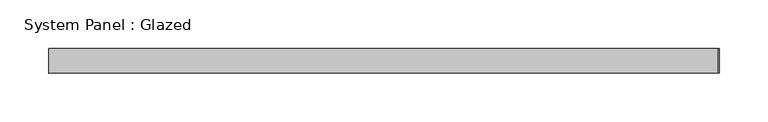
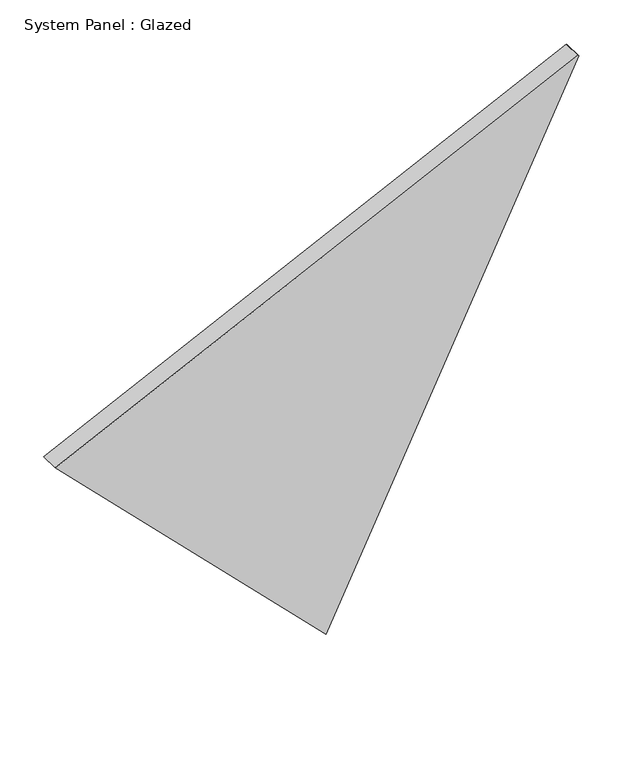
"""IFC4 building model written with IfcOpenShell, lengths in millimetres: plate geometry, System Panel : Glazed."""

from ifc_helpers import new_model, si_unit, frame, origin, place, context, project, spatial, polyline, outline, extrude, source, transform, mapped, element, save


def system_panel_glazed_60b97da7(model_context):
    return source(origin(), model_context, "Body", "SweptSolid", [
        extrude(outline(polyline([(356.000513, -344.0218523), (0.0, 11.8201387), (686.7107457, 344.0218523), (687.896343, 342.836783), (356.000513, -344.0218523)])), frame((0.0, -44.45, 0.0), z_axis=(0.0, 1.0, 0.0), x_axis=(0.0, 0.0, 1.0)), (0.0, 0.0, 1.0), 25.4),
    ])


if __name__ == "__main__":
    model = new_model("IFC4")
    model_context = context("Model", 3, world=origin())
    ifc_project = project(units=[si_unit("LENGTHUNIT", "METRE", prefix="MILLI")], contexts=[model_context])
    site = spatial("IfcSite", under=ifc_project)
    building = spatial("IfcBuilding", under=site)
    placement = place(None, origin())
    system_panel_glazed_shape = system_panel_glazed_60b97da7(model_context)
    element("IfcPlate", 1, ObjectType="System Panel : Glazed", at=placement, inside=building, context=model_context, shape_type="MappedRepresentation", body=[
        mapped(system_panel_glazed_shape, transform((0.0, 0.0, 0.0), x_axis=(1.0, 0.0, 0.0), y_axis=(0.0, 1.0, 0.0), z_axis=(0.0, 0.0, 1.0))),
    ])
    save(model, "model.ifc")
